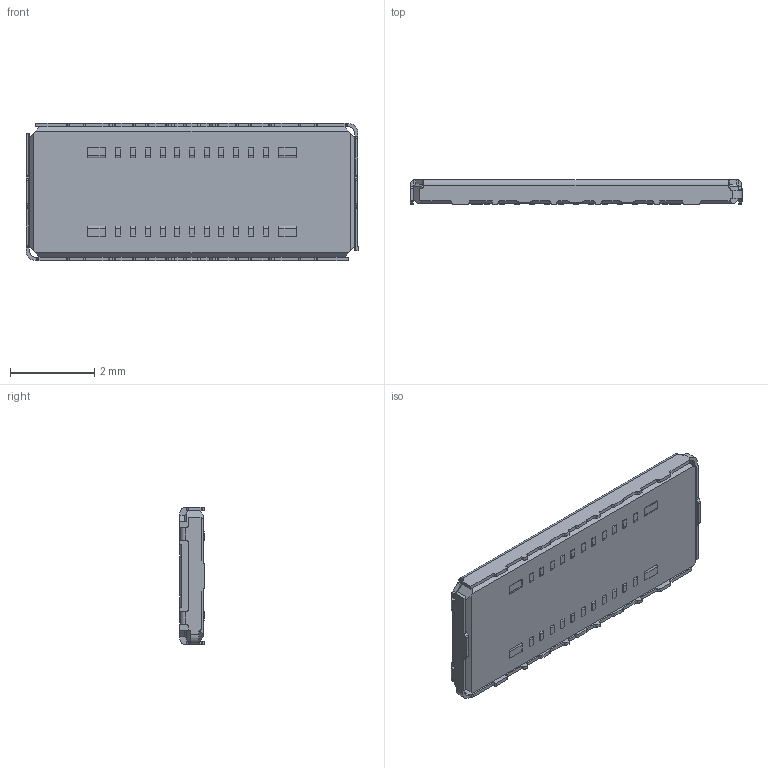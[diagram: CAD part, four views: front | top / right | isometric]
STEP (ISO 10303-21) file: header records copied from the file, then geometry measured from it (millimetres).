
FILE_DESCRIPTION (( 'STEP AP203' ), '1' );
FILE_NAME ('20698-022E-01C NOVASTACK 35-HDP RECE ASSY STEP R1 ALL.STEP', '2026-09-08T06:24:16', ( '' ), ( '' ), 'SwSTEP 2.0', 'SolidWorks 2025', '' );
FILE_SCHEMA (( 'CONFIG_CONTROL_DESIGN' ));
Length unit declared in the file: millimetre
Products named in the file (1): 20698-022E-01C NOVASTACK 35-HDP RECE ASSY STEP R1 ALL
Bounding box: 7.9 x 0.58 x 3.26 mm (x, y, z)
Volume: 12 mm3; surface area: 75.7 mm2
Topology: 1 solids, 1 shells, 417 faces, 1160 edges, 768 vertices
Faces by surface type: plane 269, cylinder 148
Entity records: 13463 total; most frequent: CARTESIAN_POINT 2454, ORIENTED_EDGE 2320, DIRECTION 2256, EDGE_CURVE 1160, LINE 860, VECTOR 860, VERTEX_POINT 768, AXIS2_PLACEMENT_3D 698
